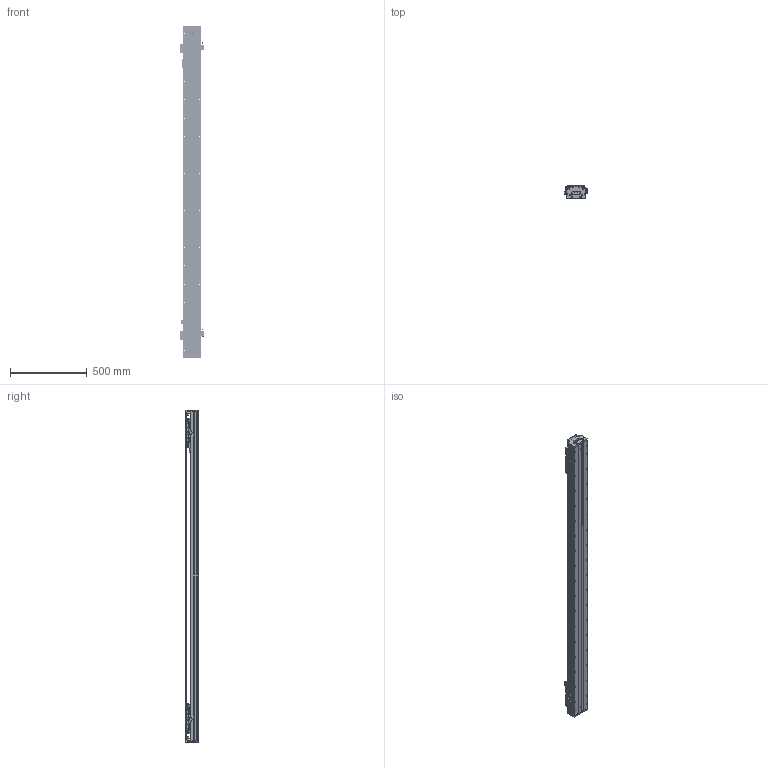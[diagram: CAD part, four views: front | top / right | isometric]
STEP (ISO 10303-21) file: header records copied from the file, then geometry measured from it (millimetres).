
FILE_DESCRIPTION (( 'STEP AP203' ), '1' );
FILE_NAME ('DKW120-2×B2-W060（T1640-L005-0.2）.STEP', '2021-09-24T02:40:28', ( '微软用户' ), ( '微软中国' ), 'SwSTEP 2.0', 'SolidWorks 2018', '' );
FILE_SCHEMA (( 'CONFIG_CONTROL_DESIGN' ));
Length unit declared in the file: millimetre
Products named in the file (24): RUS嫖掑郪璃; 10940-0001-004-00 120詩湍裔啣; DKW-KGZ-ZJ-00 中间光电开关支架; 10980-0001-003-00 嫖萇羲壽嘐隅釱; 砎蝶猾沭; DKW120-2×B2-W060（T1640-L005-0.2）; DKW-SG-GYP-H-00 嫖萇覜茼え; 12160-0000-003-00 DKW120詩湍嶺輸; B2-W060_00; 12160-0000-004-00  DKW120詩湍揤輸; DKW120-B15-T300-DZ-00 菁釱; DKW119-RU-DTJ-00 RU2黍杅芛盓殤; DKW120 单轴模组-拉钢带组件; MSB15-DG-U; B2-W060; BKMA01-W060-TRL280; 06652-0001-001-00 DKW120傷啣; EE_SX674A; RUS嫖掑喜; 06652-0001-004-00 DKW120嶺輸菜輸; DKW-DG-XJ-Z-00 笢潔滅袉砎蝶; Ru2; DKW-HXJ-JY-00 遣喳砎蝶; DKW-GYP-ZJ-00 笢潔嫖萇覜茼え
Assembly tree (41 placements, depth 3):
  DKW120-2×B2-W060（T1640-L005-0.2）
    DKW120-B15-T300-DZ-00 菁釱
    MSB15-DG-U  x2
    DKW120 单轴模组-拉钢带组件
      06652-0001-001-00 DKW120傷啣  x2
      06652-0001-004-00 DKW120嶺輸菜輸  x4
      DKW-HXJ-JY-00 遣喳砎蝶  x4
      10940-0001-004-00 120詩湍裔啣
      砎蝶猾沭  x2
      12160-0000-003-00 DKW120詩湍嶺輸  x2
      12160-0000-004-00  DKW120詩湍揤輸  x2
    BKMA01-W060-TRL280
    RUS嫖掑郪璃
      RUS嫖掑喜
      Ru2
    10980-0001-003-00 嫖萇羲壽嘐隅釱  x2
    B2-W060  x2
      DKW-SG-GYP-H-00 嫖萇覜茼え
      B2-W060_00
      DKW119-RU-DTJ-00 RU2黍杅芛盓殤
    EE_SX674A  x5
    Ru2
    DKW-DG-XJ-Z-00 笢潔滅袉砎蝶
    DKW-GYP-ZJ-00 笢潔嫖萇覜茼え
    DKW-KGZ-ZJ-00 中间光电开关支架
Bounding box: 154.1 x 84 x 2156 mm (x, y, z)
Volume: 8039121 mm3; surface area: 3113680.9 mm2
Topology: 60 solids, 158 shells, 6548 faces, 17806 edges, 11475 vertices
Faces by surface type: plane 3610, cylinder 1956, bspline 494, cone 488
Entity records: 143708 total; most frequent: CARTESIAN_POINT 49320, ORIENTED_EDGE 19521, DIRECTION 18176, EDGE_CURVE 9801, VERTEX_POINT 6433, AXIS2_PLACEMENT_3D 6104, VECTOR 5968, LINE 5968
